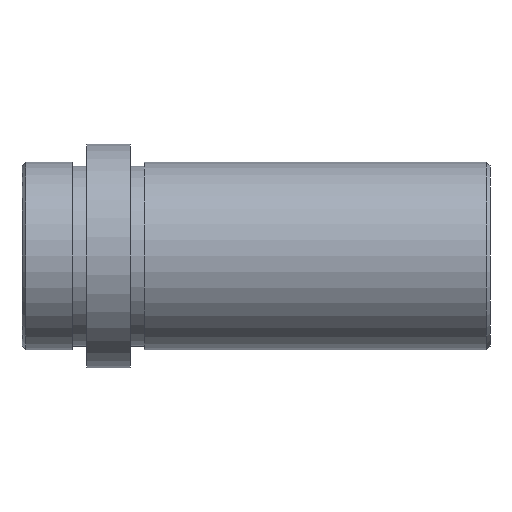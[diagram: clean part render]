
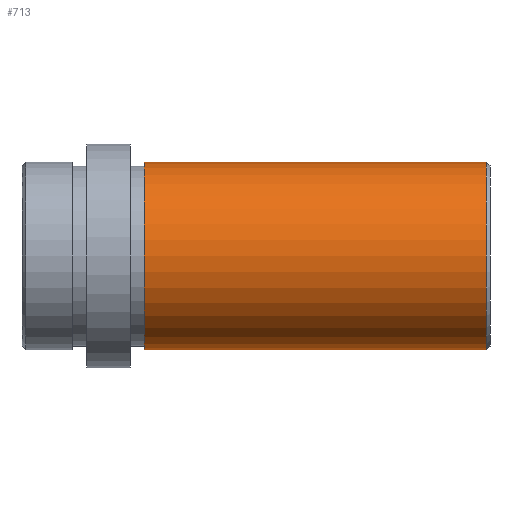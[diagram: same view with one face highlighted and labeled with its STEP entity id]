
A CAD part, front view. The second image highlights one B-rep face of the part: STEP entity #713.
In plain terms, the highlighted cylindrical face has radius 13 mm (diameter 26 mm), a partial arc.
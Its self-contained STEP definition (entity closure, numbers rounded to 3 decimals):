
#8 = VERTEX_POINT ( 'NONE', #40 ) ;
#27 = ORIENTED_EDGE ( 'NONE', *, *, #341, .T. ) ;
#35 = VERTEX_POINT ( 'NONE', #270 ) ;
#40 = CARTESIAN_POINT ( 'NONE',  ( 64.5, 0., 13. ) ) ;
#48 = DIRECTION ( 'NONE',  ( -1., 0., 0. ) ) ;
#49 = ORIENTED_EDGE ( 'NONE', *, *, #327, .T. ) ;
#70 = CARTESIAN_POINT ( 'NONE',  ( 75., 0., -13. ) ) ;
#99 = ORIENTED_EDGE ( 'NONE', *, *, #295, .F. ) ;
#118 = CARTESIAN_POINT ( 'NONE',  ( 17., 0., 0. ) ) ;
#127 = DIRECTION ( 'NONE',  ( 0., 0., 1. ) ) ;
#159 = CARTESIAN_POINT ( 'NONE',  ( 17., 0., 13. ) ) ;
#160 = EDGE_LOOP ( 'NONE', ( #248, #49, #27, #99 ) ) ;
#187 = DIRECTION ( 'NONE',  ( -1., 0., 0. ) ) ;
#193 = CARTESIAN_POINT ( 'NONE',  ( 64.5, 0., -13. ) ) ;
#199 = VERTEX_POINT ( 'NONE', #159 ) ;
#248 = ORIENTED_EDGE ( 'NONE', *, *, #309, .F. ) ;
#269 = LINE ( 'NONE', #70, #635 ) ;
#270 = CARTESIAN_POINT ( 'NONE',  ( 17., 0., -13. ) ) ;
#271 = VERTEX_POINT ( 'NONE', #193 ) ;
#295 = EDGE_CURVE ( 'NONE', #35, #199, #590, .T. ) ;
#309 = EDGE_CURVE ( 'NONE', #271, #35, #269, .T. ) ;
#327 = EDGE_CURVE ( 'NONE', #271, #8, #608, .T. ) ;
#341 = EDGE_CURVE ( 'NONE', #8, #199, #410, .T. ) ;
#355 = CARTESIAN_POINT ( 'NONE',  ( 75., 0., 13. ) ) ;
#367 = DIRECTION ( 'NONE',  ( 0., 0., 1. ) ) ;
#375 = FACE_OUTER_BOUND ( 'NONE', #160, .T. ) ;
#376 = DIRECTION ( 'NONE',  ( -1., 0., 0. ) ) ;
#392 = DIRECTION ( 'NONE',  ( 0., 0., 1. ) ) ;
#410 = LINE ( 'NONE', #355, #602 ) ;
#435 = CYLINDRICAL_SURFACE ( 'NONE', #678, 13. ) ;
#461 = CARTESIAN_POINT ( 'NONE',  ( 64.5, 0., 0. ) ) ;
#502 = CARTESIAN_POINT ( 'NONE',  ( 75., 0., 0. ) ) ;
#513 = DIRECTION ( 'NONE',  ( -1., 0., 0. ) ) ;
#548 = DIRECTION ( 'NONE',  ( -1., 0., 0. ) ) ;
#590 = CIRCLE ( 'NONE', #619, 13. ) ;
#602 = VECTOR ( 'NONE', #513, 1000. ) ;
#608 = CIRCLE ( 'NONE', #674, 13. ) ;
#619 = AXIS2_PLACEMENT_3D ( 'NONE', #118, #48, #127 ) ;
#635 = VECTOR ( 'NONE', #187, 1000. ) ;
#674 = AXIS2_PLACEMENT_3D ( 'NONE', #461, #548, #392 ) ;
#678 = AXIS2_PLACEMENT_3D ( 'NONE', #502, #376, #367 ) ;
#713 = ADVANCED_FACE ( 'NONE', ( #375 ), #435, .T. ) ;
